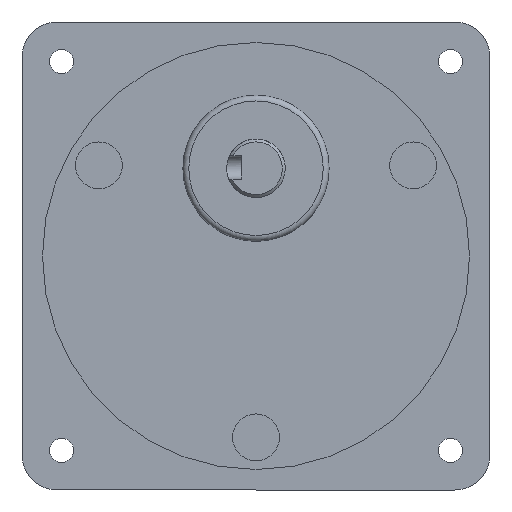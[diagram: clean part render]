
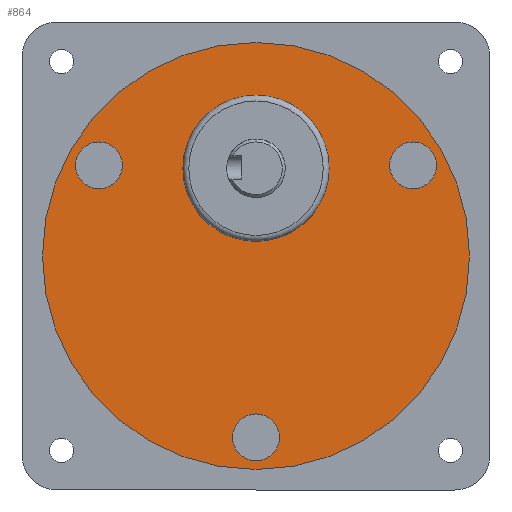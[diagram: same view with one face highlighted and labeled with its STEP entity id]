
A CAD part, front view. The second image highlights one B-rep face of the part: STEP entity #864.
In plain terms, the highlighted planar face has unit normal (0, -1, 0).
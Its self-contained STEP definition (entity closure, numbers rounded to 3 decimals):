
#724=CARTESIAN_POINT('',(24.847,0.5,18.964));
#725=VERTEX_POINT('',#724);
#726=CARTESIAN_POINT('',(26.847,0.5,15.5));
#727=DIRECTION('',(0.0,1.0,0.0));
#728=DIRECTION('',(0.5,0.0,-0.866));
#729=AXIS2_PLACEMENT_3D('',#726,#727,#728);
#730=CIRCLE('',#729,4.);
#731=EDGE_CURVE('',#725,#725,#730,.T.);
#761=CARTESIAN_POINT('',(-28.847,0.5,12.036));
#762=VERTEX_POINT('',#761);
#763=CARTESIAN_POINT('',(-26.847,0.5,15.5));
#764=DIRECTION('',(0.0,1.,0.0));
#765=DIRECTION('',(0.5,0.0,0.866));
#766=AXIS2_PLACEMENT_3D('',#763,#764,#765);
#767=CIRCLE('',#766,4.0);
#768=EDGE_CURVE('',#762,#762,#767,.T.);
#798=CARTESIAN_POINT('',(4.0,0.5,-31.0));
#799=VERTEX_POINT('',#798);
#800=CARTESIAN_POINT('',(0.0,0.5,-31.0));
#801=DIRECTION('',(0.0,1.0,0.0));
#802=DIRECTION('',(-1.0,0.0,0.0));
#803=AXIS2_PLACEMENT_3D('',#800,#801,#802);
#804=CIRCLE('',#803,4.0);
#805=EDGE_CURVE('',#799,#799,#804,.T.);
#824=CARTESIAN_POINT('',(36.5,0.5,0.));
#825=VERTEX_POINT('',#824);
#826=CARTESIAN_POINT('',(0.0,0.5,0.0));
#827=DIRECTION('',(0.0,-1.0,0.0));
#828=DIRECTION('',(-1.0,0.0,0.0));
#829=AXIS2_PLACEMENT_3D('',#826,#827,#828);
#830=CIRCLE('',#829,36.5);
#831=EDGE_CURVE('',#825,#825,#830,.T.);
#847=CARTESIAN_POINT('',(0.0,0.5,0.0));
#848=DIRECTION('',(0.0,1.0,0.0));
#849=DIRECTION('',(0.0,0.0,1.0));
#850=AXIS2_PLACEMENT_3D('',#847,#848,#849);
#851=PLANE('',#850);
#852=ORIENTED_EDGE('',*,*,#831,.T.);
#853=EDGE_LOOP('',(#852));
#854=FACE_OUTER_BOUND('',#853,.T.);
#855=ORIENTED_EDGE('',*,*,#731,.T.);
#856=EDGE_LOOP('',(#855));
#857=FACE_BOUND('',#856,.T.);
#858=ORIENTED_EDGE('',*,*,#768,.T.);
#859=EDGE_LOOP('',(#858));
#860=FACE_BOUND('',#859,.T.);
#861=ORIENTED_EDGE('',*,*,#805,.T.);
#862=EDGE_LOOP('',(#861));
#863=FACE_BOUND('',#862,.T.);
#864=ADVANCED_FACE('',(#854,#857,#860,#863),#851,.F.);
